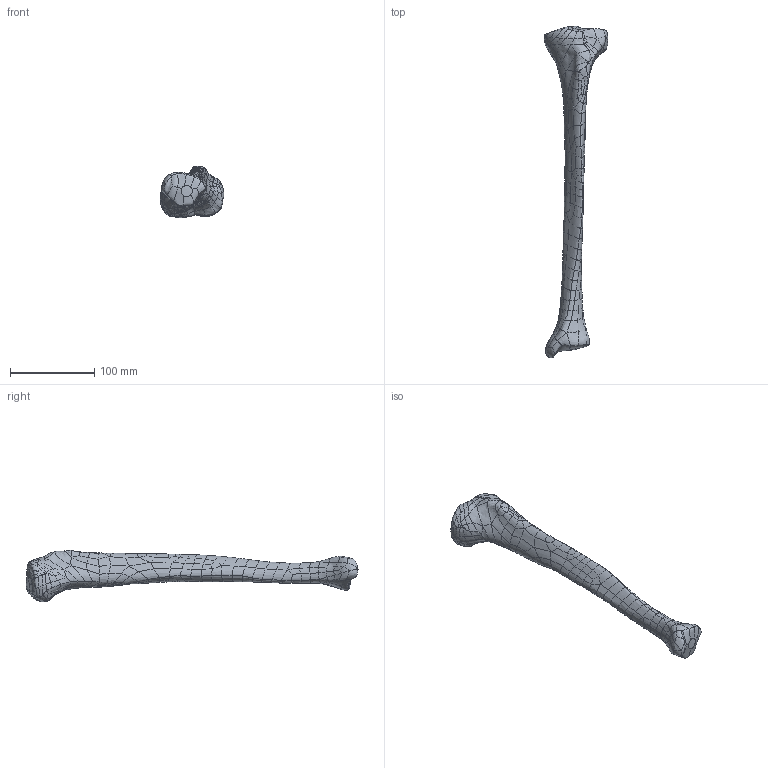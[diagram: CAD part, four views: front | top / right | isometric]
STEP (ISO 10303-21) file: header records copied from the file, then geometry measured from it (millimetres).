
FILE_DESCRIPTION (( 'STEP AP203' ), '1' );
FILE_NAME ('1117.STEP', '2025-05-26T17:48:38', ( '' ), ( '' ), 'SwSTEP 2.0', 'SolidWorks 2024', '' );
FILE_SCHEMA (( 'CONFIG_CONTROL_DESIGN' ));
Products named in the file (1): 1117
Bounding box: 75.43 x 393.52 x 60.78 mm (x, y, z)
Volume: 319496.9 mm3; surface area: 44623.2 mm2
Topology: 1 solids, 1 shells, 712 faces, 1600 edges, 901 vertices
Faces by surface type: bspline 711, plane 1
Entity records: 314914 total; most frequent: CARTESIAN_POINT 304656, ORIENTED_EDGE 3200, B_SPLINE_CURVE_WITH_KNOTS 1600, EDGE_CURVE 1600, VERTEX_POINT 901, EDGE_LOOP 723, FACE_OUTER_BOUND 712, ADVANCED_FACE 712
